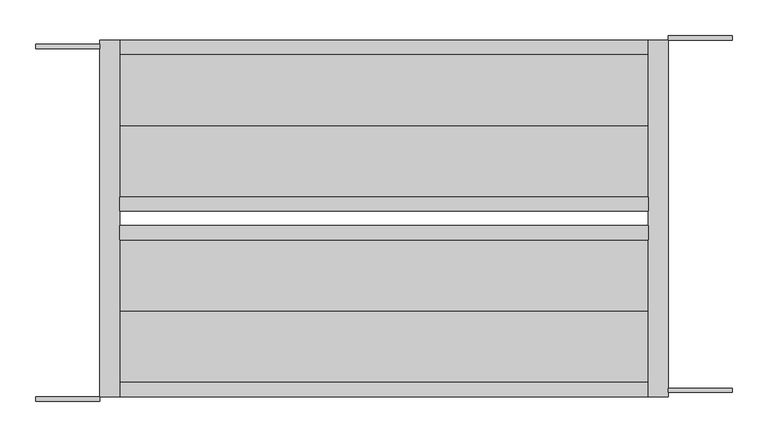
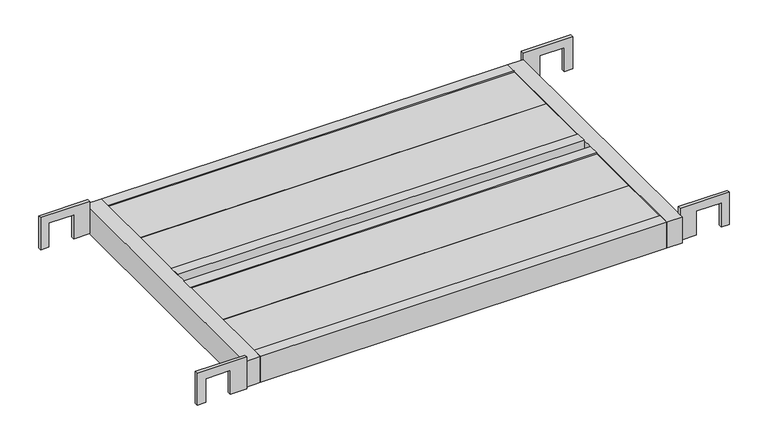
"""IFC4 building model written with IfcOpenShell, lengths in millimetres: proxy geometry, AKK布板HF-509_斜線なし_軽 : 鋼製布板 HF-509."""

import ifcopenshell
import ifcopenshell.guid

model = None  # the IFC model being written
_history = None  # IfcOwnerHistory: only IFC2X3 demands one
_inside = {}  # id of a spatial element -> (the spatial element, [elements in it])
_under = {}  # id of a project, library or spatial element -> (it, [spatial elements below it])
_declared = {}  # id of a project -> (the project, [libraries it declares])
_typed = {}  # id of a type object -> (the type object, [elements of that type])
_made_of = {}  # id of a material, layer set ... -> (it, [elements and type objects made of it])


def new_model(schema):
    """Start an empty IFC model of exactly this schema.

    Asked for "IFC4X3", IfcOpenShell would pick the latest addendum, in which some entities
    have other attributes; the version numbers below select the first issue.
    IFC2X3 requires an IfcOwnerHistory on every rooted entity: one is made here for all.
    """
    global model, _history
    if schema == "IFC4X3":
        model = ifcopenshell.file(schema_version=(4, 3, 0, 0))
    else:
        model = ifcopenshell.file(schema=schema)
    _inside.clear()
    _under.clear()
    _declared.clear()
    _typed.clear()
    _made_of.clear()
    _history = None
    if model.schema == "IFC2X3":
        org = make("IfcOrganization", Name="unknown")
        user = make(
            "IfcPersonAndOrganization",
            ThePerson=make("IfcPerson", FamilyName="unknown"),
            TheOrganization=org,
        )
        app = make(
            "IfcApplication",
            ApplicationDeveloper=org,
            Version="unknown",
            ApplicationFullName="unknown",
            ApplicationIdentifier="unknown",
        )
        _history = make(
            "IfcOwnerHistory",
            OwningUser=user,
            OwningApplication=app,
            ChangeAction="ADDED",
            CreationDate=0,
        )
    return model


def make(cls, **values):
    """One entity of the class cls with the attributes given. An attribute that is None is left unset."""
    return model.create_entity(
        cls, **{name: value for name, value in values.items() if value is not None}
    )


def rooted(cls, **values):
    """An entity with a GlobalId (a new one), such as an element, a storey or a relation."""
    return make(cls, GlobalId=ifcopenshell.guid.new(), OwnerHistory=_history, **values)


def si_unit(unit_type, name, prefix=None):
    """IfcSIUnit, for example si_unit("LENGTHUNIT", "METRE", prefix="MILLI")."""
    return make("IfcSIUnit", UnitType=unit_type, Prefix=prefix, Name=name)


def assignment(units):
    """IfcUnitAssignment: the units of a project."""
    return None if units is None else make("IfcUnitAssignment", Units=units)


def point(xyz):
    """IfcCartesianPoint."""
    return None if xyz is None else make("IfcCartesianPoint", Coordinates=xyz)


def direction(xyz):
    """IfcDirection."""
    return None if xyz is None else make("IfcDirection", DirectionRatios=xyz)


def frame(location, z_axis=None, x_axis=None):
    """IfcAxis2Placement3D, a coordinate frame: its origin and axes. An axis left out is left unset."""
    return make(
        "IfcAxis2Placement3D",
        Location=point(location),
        Axis=direction(z_axis),
        RefDirection=direction(x_axis),
    )


def origin():
    """The frame at (0, 0, 0) with its axes left unset."""
    return frame((0.0, 0.0, 0.0))


def place(relative_to, where):
    """IfcLocalPlacement: puts the frame where relative to a parent placement (None: the world)."""
    return make(
        "IfcLocalPlacement", PlacementRelTo=relative_to, RelativePlacement=where
    )


def context(
    kind, dimensions, precision=None, world=None, true_north=None, identifier=None
):
    """IfcGeometricRepresentationContext, for example the 3D "Model" context."""
    return make(
        "IfcGeometricRepresentationContext",
        ContextIdentifier=identifier,
        ContextType=kind,
        CoordinateSpaceDimension=dimensions,
        Precision=precision,
        WorldCoordinateSystem=world,
        TrueNorth=true_north,
    )


def project(units=None, contexts=None):
    """IfcProject with its units and contexts."""
    return rooted(
        "IfcProject",
        Name="project",
        RepresentationContexts=contexts,
        UnitsInContext=assignment(units),
    )


def spatial(cls, under=None, at=None, **own):
    """A site, building, storey or space (cls), placed at a placement, below another one or the project."""
    s = rooted(cls, ObjectPlacement=at, **own)
    if under is not None:
        _under.setdefault(under.id(), (under, []))[1].append(s)
    return s


def polyline(points):
    """IfcPolyline through the points."""
    return make("IfcPolyline", Points=[point(p) for p in points])


def outline(outer, holes=None, kind="AREA"):
    """IfcArbitraryClosedProfileDef: a profile drawn as a closed curve; with holes, ...WithVoids."""
    if holes is None:
        return make("IfcArbitraryClosedProfileDef", ProfileType=kind, OuterCurve=outer)
    return make(
        "IfcArbitraryProfileDefWithVoids",
        ProfileType=kind,
        OuterCurve=outer,
        InnerCurves=holes,
    )


def extrude(swept, where, along, depth):
    """IfcExtrudedAreaSolid: the profile swept, set in the frame where, extruded along a direction by depth."""
    return make(
        "IfcExtrudedAreaSolid",
        SweptArea=swept,
        Position=where,
        ExtrudedDirection=direction(along),
        Depth=depth,
    )


def shape(context_of_items, identifier, shape_type, items):
    """IfcShapeRepresentation: the items that make up one representation, for example the "Body"."""
    return make(
        "IfcShapeRepresentation",
        ContextOfItems=context_of_items,
        RepresentationIdentifier=identifier,
        RepresentationType=shape_type,
        Items=items,
    )


def source(mapping_origin, context_of_items, identifier, shape_type, items):
    """IfcRepresentationMap: a shape defined once, which mapped items show again and again."""
    return make(
        "IfcRepresentationMap",
        MappingOrigin=mapping_origin,
        MappedRepresentation=shape(context_of_items, identifier, shape_type, items),
    )


def transform(
    local_origin,
    x_axis=None,
    y_axis=None,
    z_axis=None,
    scale=None,
    scale2=None,
    scale3=None,
    uniform=True,
):
    """IfcCartesianTransformationOperator3D, or its non-uniform kind. x_axis, y_axis, z_axis: its Axis1, 2, 3."""
    if uniform:
        return make(
            "IfcCartesianTransformationOperator3D",
            Axis1=direction(x_axis),
            Axis2=direction(y_axis),
            LocalOrigin=point(local_origin),
            Scale=scale,
            Axis3=direction(z_axis),
        )
    return make(
        "IfcCartesianTransformationOperator3DnonUniform",
        Axis1=direction(x_axis),
        Axis2=direction(y_axis),
        LocalOrigin=point(local_origin),
        Scale=scale,
        Axis3=direction(z_axis),
        Scale2=scale2,
        Scale3=scale3,
    )


def mapped(mapping_source, mapping_target):
    """IfcMappedItem: shows the shape of a source again, moved by a transform."""
    return make(
        "IfcMappedItem", MappingSource=mapping_source, MappingTarget=mapping_target
    )


def made_of(thing, what):
    """Note that an element or type object is made of a material, layer set ...; save() writes the relation."""
    if what is not None:
        _made_of.setdefault(what.id(), (what, []))[1].append(thing)
    return thing


def element(
    cls,
    number,
    at=None,
    inside=None,
    cuts=None,
    type_object=None,
    material=None,
    context=None,
    identifier="Body",
    shape_type=None,
    held_by="IfcProductDefinitionShape",
    body=None,
    shapes=None,
    **own,
):
    """One element of the class cls, such as IfcWall. Its Tag is "e" and its number.

    at: its placement. inside: the storey or other place that contains it. cuts: it is an
    opening in that element (IfcRelVoidsElement). A single representation is given by context,
    identifier, shape_type and body (its items); several are given by shapes. held_by: the class
    of the entity that holds the representations. save() writes the other relations.
    """
    e = rooted(cls, Tag="e%d" % number, ObjectPlacement=at, **own)
    if body is not None:
        shapes = [shape(context, identifier, shape_type, body)]
    if shapes is not None:
        e.Representation = make(held_by, Representations=shapes)
    if inside is not None:
        _inside.setdefault(inside.id(), (inside, []))[1].append(e)
    if cuts is not None:
        rooted(
            "IfcRelVoidsElement", RelatingBuildingElement=cuts, RelatedOpeningElement=e
        )
    if type_object is not None:
        _typed.setdefault(type_object.id(), (type_object, []))[1].append(e)
    return made_of(e, material)


def aggregate(whole, parts):
    """IfcRelAggregates: a whole, such as a stair, and the parts it consists of."""
    return rooted("IfcRelAggregates", RelatingObject=whole, RelatedObjects=parts)


def save(model, path):
    """Write the relations noted so far, then the file.

    IfcRelAggregates (storeys below a building ...), IfcRelContainedInSpatialStructure (elements
    in a storey), IfcRelDefinesByType, IfcRelAssociatesMaterial and IfcRelDeclares: one each for
    every whole, place, type object, material and project.
    """
    for whole, parts in _under.values():
        aggregate(whole, parts)
    for where, things in _inside.values():
        rooted(
            "IfcRelContainedInSpatialStructure",
            RelatedElements=things,
            RelatingStructure=where,
        )
    for kind, things in _typed.values():
        rooted("IfcRelDefinesByType", RelatedObjects=things, RelatingType=kind)
    for what, things in _made_of.values():
        rooted("IfcRelAssociatesMaterial", RelatedObjects=things, RelatingMaterial=what)
    for by, libraries in _declared.values():
        rooted("IfcRelDeclares", RelatingContext=by, RelatedDefinitions=libraries)
    model.write(path)


def generic_models_ff1ff812(model_context):
    return source(origin(), model_context, "Body", "SweptSolid", [
        extrude(outline(polyline([(37.5, 855.0), (-24.1, 855.0), (-24.1, 884.5), (22.0, 884.5), (22.0, 929.5), (-24.1, 929.5), (-24.1, 944.5), (37.5, 944.5), (37.5, 855.0)])), frame((0.0, 12.0, 0.0), z_axis=(0.0, 1.0, 0.0), x_axis=(0.0, 0.0, 1.0)), (0.0, 0.0, 1.0), 6.0),
        extrude(outline(polyline([(37.5, 855.0), (-24.1, 855.0), (-24.1, 884.5), (22.0, 884.5), (22.0, 929.5), (-24.1, 929.5), (-24.1, 944.5), (37.5, 944.5), (37.5, 855.0)])), frame((0.0, 506.0, 0.0), z_axis=(0.0, 1.0, 0.0), x_axis=(0.0, 0.0, 1.0)), (0.0, 0.0, 1.0), 6.0),
        extrude(outline(polyline([(37.5, -30.5), (-24.1, -30.5), (-24.1, -15.5), (22.0, -15.5), (22.0, 29.5), (-24.1, 29.5), (-24.1, 59.0), (37.5, 59.0), (37.5, -30.5)])), frame((0.0, 0.0, 0.0), z_axis=(0.0, 1.0, 0.0), x_axis=(0.0, 0.0, 1.0)), (0.0, 0.0, 1.0), 6.0),
        extrude(outline(polyline([(37.5, -30.5), (-24.1, -30.5), (-24.1, -15.5), (22.0, -15.5), (22.0, 29.5), (-24.1, 29.5), (-24.1, 59.0), (37.5, 59.0), (37.5, -30.5)])), frame((0.0, 494.0, 0.0), z_axis=(0.0, 1.0, 0.0), x_axis=(0.0, 0.0, 1.0)), (0.0, 0.0, 1.0), 6.0),
        extrude(outline(polyline([(827.0, 486.0), (827.0, 386.0), (87.0, 386.0), (87.0, 486.0), (827.0, 486.0)])), frame((0.0, 0.0, 17.5), z_axis=(0.0, 0.0, 1.0), x_axis=(1.0, 0.0, 0.0)), (0.0, 0.0, 1.0), 5.0),
        extrude(outline(polyline([(827.0, 386.0), (827.0, 286.0), (87.0, 286.0), (87.0, 386.0), (827.0, 386.0)])), frame((0.0, 0.0, 17.5), z_axis=(0.0, 0.0, 1.0), x_axis=(1.0, 0.0, 0.0)), (0.0, 0.0, 1.0), 5.0),
        extrude(outline(polyline([(827.0, 226.0), (827.0, 126.0), (87.0, 126.0), (87.0, 226.0), (827.0, 226.0)])), frame((0.0, 0.0, 17.5), z_axis=(0.0, 0.0, 1.0), x_axis=(1.0, 0.0, 0.0)), (0.0, 0.0, 1.0), 5.0),
        extrude(outline(polyline([(827.0, 126.0), (827.0, 26.0), (87.0, 26.0), (87.0, 126.0), (827.0, 126.0)])), frame((0.0, 0.0, 17.5), z_axis=(0.0, 0.0, 1.0), x_axis=(1.0, 0.0, 0.0)), (0.0, 0.0, 1.0), 5.0),
        extrude(outline(polyline([(827.0, 286.0), (827.0, 266.0), (87.0, 266.0), (87.0, 286.0), (827.0, 286.0)])), frame((0.0, 0.0, -25.0), z_axis=(0.0, 0.0, 1.0), x_axis=(1.0, 0.0, 0.0)), (0.0, 0.0, 1.0), 50.0),
        extrude(outline(polyline([(827.0, 246.0), (827.0, 226.0), (87.0, 226.0), (87.0, 246.0), (827.0, 246.0)])), frame((0.0, 0.0, -25.0), z_axis=(0.0, 0.0, 1.0), x_axis=(1.0, 0.0, 0.0)), (0.0, 0.0, 1.0), 50.0),
        extrude(outline(polyline([(827.0, 6.0), (827.0, 506.0), (855.0, 506.0), (855.0, 6.0), (827.0, 6.0)])), frame((0.0, 0.0, -25.0), z_axis=(0.0, 0.0, 1.0), x_axis=(1.0, 0.0, 0.0)), (0.0, 0.0, 1.0), 50.0),
        extrude(outline(polyline([(59.0, 6.0), (59.0, 506.0), (87.0, 506.0), (87.0, 6.0), (59.0, 6.0)])), frame((0.0, 0.0, -25.0), z_axis=(0.0, 0.0, 1.0), x_axis=(1.0, 0.0, 0.0)), (0.0, 0.0, 1.0), 50.0),
        extrude(outline(polyline([(827.0, 506.0), (827.0, 486.0), (87.0, 486.0), (87.0, 506.0), (827.0, 506.0)])), frame((0.0, 0.0, -25.0), z_axis=(0.0, 0.0, 1.0), x_axis=(1.0, 0.0, 0.0)), (0.0, 0.0, 1.0), 50.0),
        extrude(outline(polyline([(827.0, 26.0), (827.0, 6.0), (87.0, 6.0), (87.0, 26.0), (827.0, 26.0)])), frame((0.0, 0.0, -25.0), z_axis=(0.0, 0.0, 1.0), x_axis=(1.0, 0.0, 0.0)), (0.0, 0.0, 1.0), 50.0),
    ])


if __name__ == "__main__":
    model = new_model("IFC4")
    model_context = context("Model", 3, world=origin())
    ifc_project = project(units=[si_unit("LENGTHUNIT", "METRE", prefix="MILLI")], contexts=[model_context])
    site = spatial("IfcSite", under=ifc_project)
    building = spatial("IfcBuilding", under=site)
    placement = place(None, origin())
    generic_models_shape = generic_models_ff1ff812(model_context)
    element("IfcBuildingElementProxy", 1, Name="AKK布板HF-509_斜線なし_軽 : 鋼製布板 HF-509", ObjectType="AKK布板HF-509_斜線なし_軽 : 鋼製布板 HF-509", at=placement, inside=building, context=model_context, shape_type="MappedRepresentation", body=[
        mapped(generic_models_shape, transform((0.0, 0.0, 0.0), x_axis=(1.0, 0.0, 0.0), y_axis=(0.0, 1.0, 0.0), z_axis=(0.0, 0.0, 1.0))),
    ])
    save(model, "model.ifc")
